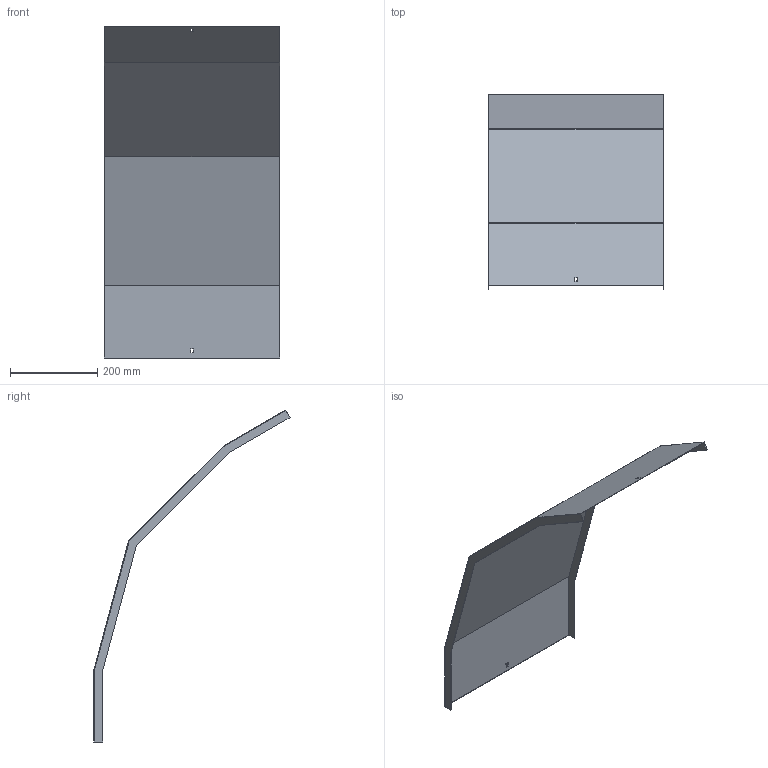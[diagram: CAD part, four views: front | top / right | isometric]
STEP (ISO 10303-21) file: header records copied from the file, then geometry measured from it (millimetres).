
FILE_DESCRIPTION (( 'STEP AP214' ), '1' );
FILE_NAME ('41N5D400.step', '2025-02-21T10:38:10', ( '' ), ( '' ), 'SwSTEP 2.0', 'SolidWorks 2023', '' );
FILE_SCHEMA (( 'AUTOMOTIVE_DESIGN' ));
Length unit declared in the file: millimetre
Products named in the file (1): 41N5D400
Bounding box: 403 x 449.97 x 762.06 mm (x, y, z)
Volume: 622574 mm3; surface area: 834286 mm2
Topology: 1 solids, 1 shells, 30 faces, 84 edges, 56 vertices
Faces by surface type: plane 30
Entity records: 979 total; most frequent: CARTESIAN_POINT 171, ORIENTED_EDGE 168, DIRECTION 146, EDGE_CURVE 84, LINE 84, VECTOR 84, VERTEX_POINT 56, EDGE_LOOP 34
